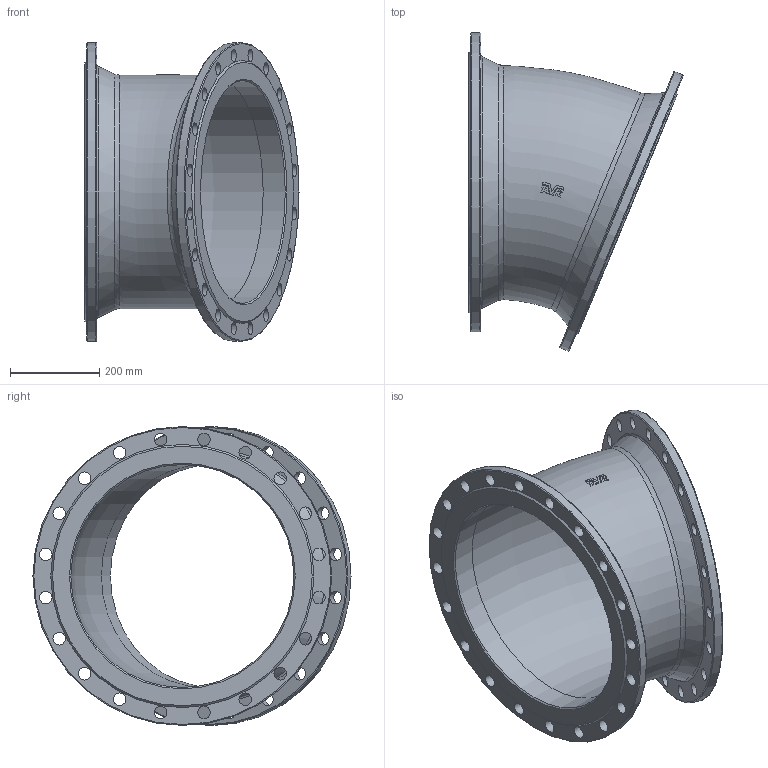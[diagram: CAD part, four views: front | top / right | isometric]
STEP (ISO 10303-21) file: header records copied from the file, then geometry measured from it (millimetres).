
FILE_DESCRIPTION (( 'STEP AP203' ), '1' );
FILE_NAME ('O_712_0210_DN500_0X_REV01.step', '2024-08-15T12:29:04', ( '' ), ( '' ), 'SwSTEP 2.0', 'SolidWorks 2022', '' );
FILE_SCHEMA (( 'CONFIG_CONTROL_DESIGN' ));
Length unit declared in the file: millimetre
Products named in the file (1): O_712_0210_DN500_0X_REV01
Bounding box: 479.81 x 713.15 x 670 mm (x, y, z)
Volume: 14702500.8 mm3; surface area: 1744023.4 mm2
Topology: 1 solids, 1 shells, 107 faces, 302 edges, 205 vertices
Faces by surface type: cylinder 46, plane 41, torus 12, cone 6, bspline 2
Full cylindrical faces by diameter (mm): 28 x40, 500 x2, 670 x2
Entity records: 5308 total; most frequent: CARTESIAN_POINT 2755, DIRECTION 453, ORIENTED_EDGE 434, EDGE_LOOP 257, EDGE_CURVE 217, AXIS2_PLACEMENT_3D 208, VERTEX_POINT 180, FACE_OUTER_BOUND 161
